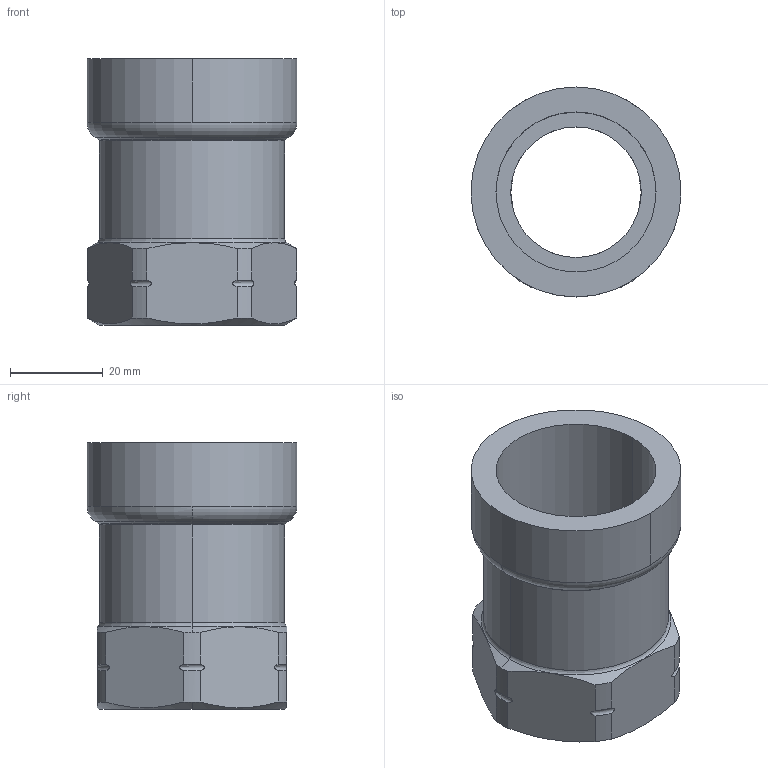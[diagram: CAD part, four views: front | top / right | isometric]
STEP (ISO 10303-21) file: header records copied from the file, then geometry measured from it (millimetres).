
FILE_DESCRIPTION(('Creo Elements/Direct Modeling STEP Export'),'2;1');
FILE_NAME('C9402_1.stp','2020-06-18T11:08:09',(''),(''),'PTC Creo Elements/Direct Modeling STEP processor for AP214 (Solid Model)','PTC Creo Elements/Direct Modeling 19.0C 15-Aug-2015 (C) Parametric Technology GmbH','');
FILE_SCHEMA(('AUTOMOTIVE_DESIGN { 1 0 10303 214 1 1 1 1 }'));
Length unit declared in the file: millimetre
Products named in the file (2): C9402_1
Assembly tree (1 placements, depth 2):
  C9402_1
    C9402_1
Bounding box: 45.4 x 45.4 x 57.6 mm (x, y, z)
Volume: 32940 mm3; surface area: 15432.8 mm2
Topology: 1 solids, 1 shells, 55 faces, 145 edges, 93 vertices
Faces by surface type: cylinder 18, cone 16, torus 12, plane 9
Entity records: 4078 total; most frequent: CARTESIAN_POINT 2832, ORIENTED_EDGE 290, DIRECTION 194, EDGE_CURVE 145, VERTEX_POINT 93, AXIS2_PLACEMENT_3D 83, EDGE_LOOP 58, FACE_OUTER_BOUND 55
